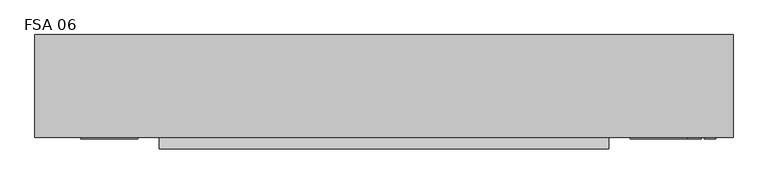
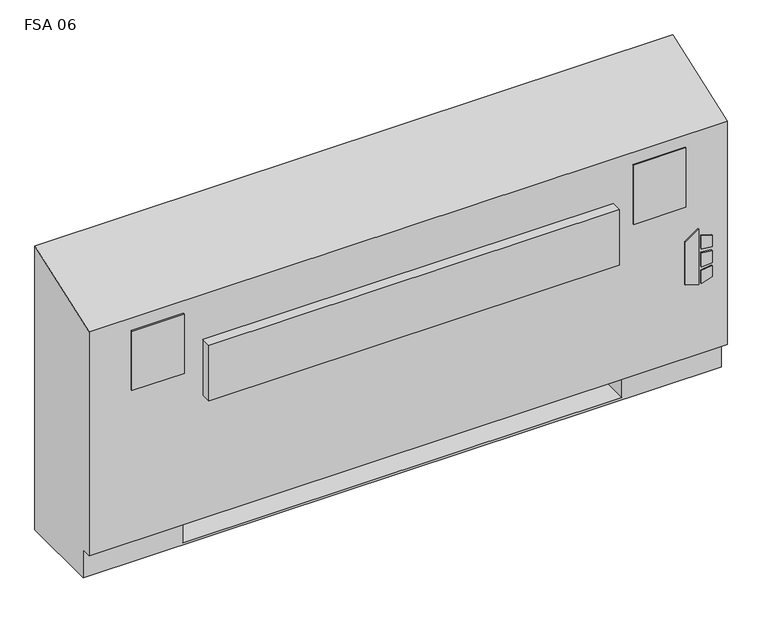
"""IFC4 building model written with IfcOpenShell, lengths in millimetres: proxy geometry, Vertical_Fan_Coil_Unit_-_FSA_-_IEC_-_4-Pipe_FS-FR_RH_2022 : FSA 06."""

from ifc_helpers import new_model, si_unit, point, frame, frame_2d, origin, place, context, project, spatial, polyline, circle_curve, trimmed, segment, composite_curve, outline, extrude, source, transform, mapped, element, save
from ifc_brep_helpers import plane_surface, revolved_surface, advanced_brep


def fsa_06_bd2dc38c(model_context):
    return source(origin(), model_context, "Body", "SolidModel", [
        extrude(outline(polyline([(263.9480703, 823.9868862), (254.0, 856.1602728), (396.1709244, 856.1602728), (373.1489183, 823.9868862), (263.9480703, 823.9868862)])), frame((0.0, 12.7, 0.0), z_axis=(0.0, 1.0, 0.0), x_axis=(0.0, 0.0, 1.0)), (0.0, 0.0, 1.0), 3.175),
        extrude(outline(polyline([(342.9473557, 862.9186058), (339.7449632, 889.0), (368.9738042, 889.0), (377.0382193, 862.9186058), (342.9473557, 862.9186058)])), frame((0.0, 12.7, 0.0), z_axis=(0.0, 1.0, 0.0), x_axis=(0.0, 0.0, 1.0)), (0.0, 0.0, 1.0), 3.175),
        extrude(outline(polyline([(291.0838288, 889.0), (287.4183279, 862.9186058), (254.0, 862.9186058), (262.6342372, 889.0), (291.0838288, 889.0)])), frame((0.0, 12.7, 0.0), z_axis=(0.0, 1.0, 0.0), x_axis=(0.0, 0.0, 1.0)), (0.0, 0.0, 1.0), 3.175),
        extrude(outline(polyline([(330.3989903, 889.0), (332.6808166, 862.9186058), (296.7432681, 862.9186058), (299.4845331, 889.0), (330.3989903, 889.0)])), frame((0.0, 12.7, 0.0), z_axis=(0.0, 1.0, 0.0), x_axis=(0.0, 0.0, 1.0)), (0.0, 0.0, 1.0), 3.175),
        extrude(outline(polyline([(-501.65, 81.534), (-501.65, 223.266), (-381.0, 223.266), (-381.0, 81.534), (-501.65, 81.534)])), frame((0.0, 0.0, 327.025), z_axis=(0.0, 0.0, 1.0), x_axis=(1.0, 0.0, 0.0)), (0.0, 0.0, 1.0), 260.35),
        extrude(outline(polyline([(-393.7, 12.7), (-520.7, 12.7), (-520.7, 15.875), (-393.7, 15.875), (-393.7, 12.7)])), frame((0.0, 0.0, 463.55), z_axis=(0.0, 0.0, 1.0), x_axis=(1.0, 0.0, 0.0)), (0.0, 0.0, 1.0), 152.4),
        extrude(outline(polyline([(825.5, 12.7), (698.5, 12.7), (698.5, 15.875), (825.5, 15.875), (825.5, 12.7)])), frame((0.0, 0.0, 463.55), z_axis=(0.0, 0.0, 1.0), x_axis=(1.0, 0.0, 0.0)), (0.0, 0.0, 1.0), 152.4),
        extrude(outline(composite_curve([segment(trimmed(circle_curve(frame_2d((749.3, 130.175)), 9.525), [point((739.775, 130.175))], [point((758.825, 130.175))], False, "CARTESIAN"), True, "CONTINUOUS"), segment(trimmed(circle_curve(frame_2d((749.3, 130.175)), 9.525), [point((758.825, 130.175))], [point((739.775, 130.175))], False, "CARTESIAN"), True, "CONTINUOUS")], self_intersect=False)), frame((0.0, 0.0, 101.6), z_axis=(0.0, 0.0, 1.0), x_axis=(1.0, 0.0, 0.0)), (0.0, 0.0, 1.0), 25.4),
        extrude(outline(polyline([(850.9, 196.85), (850.9, 63.5), (685.8, 63.5), (685.8, 196.85), (850.9, 196.85)])), frame((0.0, 0.0, 127.0), z_axis=(0.0, 0.0, 1.0), x_axis=(1.0, 0.0, 0.0)), (0.0, 0.0, 1.0), 50.8),
        extrude(outline(polyline([(650.875, -9.525), (-346.075, -9.525), (-346.075, 15.875), (650.875, 15.875), (650.875, -9.525)])), frame((0.0, 0.0, 389.3009245), z_axis=(0.0, 0.0, 1.0), x_axis=(1.0, 0.0, 0.0)), (0.0, 0.0, 1.0), 142.875),
        extrude(outline(composite_curve([segment(trimmed(circle_curve(frame_2d((107.95, 457.2)), 7.9375), [point((107.95, 465.1375))], [point((107.95, 449.2625))], False, "CARTESIAN"), True, "CONTINUOUS"), segment(trimmed(circle_curve(frame_2d((107.95, 457.2)), 7.9375), [point((107.95, 449.2625))], [point((107.95, 465.1375))], False, "CARTESIAN"), True, "CONTINUOUS")], self_intersect=False)), frame((685.8, 0.0, 0.0), z_axis=(1.0, 0.0, 0.0), x_axis=(0.0, 1.0, 0.0)), (0.0, 0.0, 1.0), 50.8),
        extrude(outline(composite_curve([segment(trimmed(circle_curve(frame_2d((155.575, 431.8)), 7.9375), [point((155.575, 439.7375))], [point((155.575, 423.8625))], False, "CARTESIAN"), True, "CONTINUOUS"), segment(trimmed(circle_curve(frame_2d((155.575, 431.8)), 7.9375), [point((155.575, 423.8625))], [point((155.575, 439.7375))], False, "CARTESIAN"), True, "CONTINUOUS")], self_intersect=False)), frame((685.8, 0.0, 0.0), z_axis=(1.0, 0.0, 0.0), x_axis=(0.0, 1.0, 0.0)), (0.0, 0.0, 1.0), 50.8),
        extrude(outline(composite_curve([segment(trimmed(circle_curve(frame_2d((53.975, 416.56)), 7.9502), [point((53.975, 424.5102))], [point((53.975, 408.6098))], False, "CARTESIAN"), True, "CONTINUOUS"), segment(trimmed(circle_curve(frame_2d((53.975, 416.56)), 7.9502), [point((53.975, 408.6098))], [point((53.975, 424.5102))], False, "CARTESIAN"), True, "CONTINUOUS")], self_intersect=False)), frame((685.8, 0.0, 0.0), z_axis=(1.0, 0.0, 0.0), x_axis=(0.0, 1.0, 0.0)), (0.0, 0.0, 1.0), 50.8),
        extrude(outline(composite_curve([segment(trimmed(circle_curve(frame_2d((130.175, 554.99)), 7.9502), [point((130.175, 562.9402))], [point((130.175, 547.0398))], False, "CARTESIAN"), True, "CONTINUOUS"), segment(trimmed(circle_curve(frame_2d((130.175, 554.99)), 7.9502), [point((130.175, 547.0398))], [point((130.175, 562.9402))], False, "CARTESIAN"), True, "CONTINUOUS")], self_intersect=False)), frame((685.8, 0.0, 0.0), z_axis=(1.0, 0.0, 0.0), x_axis=(0.0, 1.0, 0.0)), (0.0, 0.0, 1.0), 50.8),
        advanced_brep(
        [(-622.3, 244.475, 0.0), (927.1, 244.475, 0.0), (927.1, 41.275, 0.0), (-622.3, 41.275, 0.0), (-622.3, 244.475, 730.25), (927.1, 244.475, 730.25), (685.8, 244.475, 73.025), (914.4, 244.475, 73.025), (914.4, 244.475, 654.05), (685.8, 244.475, 654.05), (685.8, 244.475, 414.8650565), (714.375, 244.475, 414.8650565), (714.375, 244.475, 385.2349435), (685.8, 244.475, 385.2349435), (685.8, 244.475, 287.3375), (714.375, 244.475, 287.3375), (714.375, 244.475, 258.7625), (685.8, 244.475, 258.7625), (685.8, 244.475, 141.2875), (714.375, 244.475, 141.2875), (714.375, 244.475, 112.7125), (685.8, 244.475, 112.7125), (-381.0, 244.475, 654.05), (-609.6, 244.475, 654.05), (-609.6, 244.475, 73.025), (-381.0, 244.475, 73.025), (-381.0, 244.475, 112.7125), (-409.575, 244.475, 112.7125), (-409.575, 244.475, 141.2875), (-381.0, 244.475, 141.2875), (-381.0, 244.475, 258.7625), (-409.575, 244.475, 258.7625), (-409.575, 244.475, 287.3375), (-381.0, 244.475, 287.3375), (-381.0, 244.475, 385.2349435), (-409.575, 244.475, 385.2349435), (-409.575, 244.475, 414.8650565), (-381.0, 244.475, 414.8650565), (704.0626, 244.475, 127.0), (692.9374, 244.475, 127.0), (704.0626, 244.475, 400.05), (692.9374, 244.475, 400.05), (704.0626, 244.475, 273.05), (692.9374, 244.475, 273.05), (-388.1374, 244.475, 127.0), (-399.2626, 244.475, 127.0), (-388.1374, 244.475, 273.05), (-399.2626, 244.475, 273.05), (-388.1374, 244.475, 400.05), (-399.2626, 244.475, 400.05), (-622.3, 41.275, 73.025), (-622.3, 15.875, 73.025), (-622.3, 15.875, 647.7), (927.1, 15.875, 73.025), (927.1, 15.875, 647.7), (927.1, 41.275, 73.025), (-381.0, 41.275, 73.025), (-381.0, 225.425, 73.025), (685.8, 225.425, 73.025), (685.8, 41.275, 73.025), (685.8, 41.275, 6.35), (-381.0, 41.275, 6.35), (685.8, 41.275, 654.05), (914.4, 41.275, 654.05), (914.4, 41.275, 73.025), (685.8, 41.275, 73.025), (-381.0, 41.275, 654.05), (-381.0, 41.275, 73.025), (-609.6, 41.275, 73.025), (-609.6, 41.275, 654.05), (685.8, 225.425, 73.025), (685.8, 238.125, 112.7125), (685.8, 238.125, 141.2875), (685.8, 238.125, 258.7625), (685.8, 238.125, 287.3375), (685.8, 238.125, 385.2349435), (685.8, 238.125, 414.8650565), (-381.0, 225.425, 73.025), (-381.0, 238.125, 414.8650565), (-381.0, 238.125, 385.2349435), (-381.0, 238.125, 287.3375), (-381.0, 238.125, 258.7625), (-381.0, 238.125, 141.2875), (-381.0, 238.125, 112.7125), (-381.0, 225.425, 6.35), (685.8, 225.425, 6.35), (714.375, 238.125, 112.7125), (714.375, 238.125, 141.2875), (692.9374, 238.125, 127.0), (704.0626, 238.125, 127.0), (714.375, 238.125, 258.7625), (714.375, 238.125, 287.3375), (692.9374, 238.125, 273.05), (704.0626, 238.125, 273.05), (714.375, 238.125, 385.2349435), (714.375, 238.125, 414.8650565), (692.9374, 238.125, 400.05), (704.0626, 238.125, 400.05), (-409.575, 238.125, 141.2875), (-409.575, 238.125, 112.7125), (-399.2626, 238.125, 127.0), (-388.1374, 238.125, 127.0), (-409.575, 238.125, 287.3375), (-409.575, 238.125, 258.7625), (-399.2626, 238.125, 273.05), (-388.1374, 238.125, 273.05), (-409.575, 238.125, 414.8650565), (-409.575, 238.125, 385.2349435), (-399.2626, 238.125, 400.05), (-388.1374, 238.125, 400.05)],
        [
            (0, 1),
            (1, 2),
            (2, 3),
            (3, 0),
            (0, 4),
            (4, 5),
            (5, 1),
            (6, 7),
            (7, 8),
            (8, 9),
            (9, 10),
            (10, 11),
            (11, 12),
            (12, 13),
            (13, 14),
            (14, 15),
            (15, 16),
            (16, 17),
            (17, 18),
            (18, 19),
            (19, 20),
            (20, 21),
            (21, 6),
            (22, 23),
            (23, 24),
            (24, 25),
            (25, 26),
            (26, 27),
            (27, 28),
            (28, 29),
            (29, 30),
            (30, 31),
            (31, 32),
            (32, 33),
            (33, 34),
            (34, 35),
            (35, 36),
            (36, 37),
            (37, 22),
            (38, 39, circle_curve(frame((698.5, 244.475, 127.0), z_axis=(0.0, -1.0, 0.0), x_axis=(-1.0, 0.0, 0.0)), 5.5626)),
            (39, 38, circle_curve(frame((698.5, 244.475, 127.0), z_axis=(0.0, -1.0, 0.0), x_axis=(-1.0, 0.0, 0.0)), 5.5626)),
            (40, 41, circle_curve(frame((698.5, 244.475, 400.05), z_axis=(0.0, -1.0, 0.0), x_axis=(-1.0, 0.0, 0.0)), 5.5626)),
            (41, 40, circle_curve(frame((698.5, 244.475, 400.05), z_axis=(0.0, -1.0, 0.0), x_axis=(-1.0, 0.0, 0.0)), 5.5626)),
            (42, 43, circle_curve(frame((698.5, 244.475, 273.05), z_axis=(0.0, -1.0, 0.0), x_axis=(-1.0, 0.0, 0.0)), 5.5626)),
            (43, 42, circle_curve(frame((698.5, 244.475, 273.05), z_axis=(0.0, -1.0, 0.0), x_axis=(-1.0, 0.0, 0.0)), 5.5626)),
            (44, 45, circle_curve(frame((-393.7, 244.475, 127.0), z_axis=(0.0, -1.0, 0.0), x_axis=(-1.0, 0.0, 0.0)), 5.5626)),
            (45, 44, circle_curve(frame((-393.7, 244.475, 127.0), z_axis=(0.0, -1.0, 0.0), x_axis=(-1.0, 0.0, 0.0)), 5.5626)),
            (46, 47, circle_curve(frame((-393.7, 244.475, 273.05), z_axis=(0.0, -1.0, 0.0), x_axis=(-1.0, 0.0, 0.0)), 5.5626)),
            (47, 46, circle_curve(frame((-393.7, 244.475, 273.05), z_axis=(0.0, -1.0, 0.0), x_axis=(-1.0, 0.0, 0.0)), 5.5626)),
            (48, 49, circle_curve(frame((-393.7, 244.475, 400.05), z_axis=(0.0, -1.0, 0.0), x_axis=(-1.0, 0.0, 0.0)), 5.5626)),
            (49, 48, circle_curve(frame((-393.7, 244.475, 400.05), z_axis=(0.0, -1.0, 0.0), x_axis=(-1.0, 0.0, 0.0)), 5.5626)),
            (3, 50),
            (50, 51),
            (51, 52),
            (52, 4),
            (51, 53),
            (53, 54),
            (54, 52),
            (5, 54),
            (53, 55),
            (55, 2),
            (50, 56),
            (56, 57),
            (57, 58),
            (58, 59),
            (59, 55),
            (59, 60),
            (60, 61),
            (61, 56),
            (62, 63),
            (63, 64),
            (64, 65),
            (65, 62),
            (66, 67),
            (67, 68),
            (68, 69),
            (69, 66),
            (65, 70),
            (70, 6),
            (21, 71),
            (71, 72),
            (72, 18),
            (17, 73),
            (73, 74),
            (74, 14),
            (13, 75),
            (75, 76),
            (76, 10),
            (9, 62),
            (64, 7),
            (63, 8),
            (69, 23),
            (22, 66),
            (68, 24),
            (67, 77),
            (77, 25),
            (37, 78),
            (78, 79),
            (79, 34),
            (33, 80),
            (80, 81),
            (81, 30),
            (29, 82),
            (82, 83),
            (83, 26),
            (57, 84),
            (84, 85),
            (85, 58),
            (85, 60),
            (84, 61),
            (71, 86),
            (86, 87),
            (87, 72),
            (88, 89, circle_curve(frame((698.5, 238.125, 127.0), z_axis=(0.0, 1.0, 0.0), x_axis=(-1.0, 0.0, 0.0)), 5.5626)),
            (89, 88, circle_curve(frame((698.5, 238.125, 127.0), z_axis=(0.0, 1.0, 0.0), x_axis=(-1.0, 0.0, 0.0)), 5.5626)),
            (73, 90),
            (90, 91),
            (91, 74),
            (92, 93, circle_curve(frame((698.5, 238.125, 273.05), z_axis=(0.0, 1.0, 0.0), x_axis=(-1.0, 0.0, 0.0)), 5.5626)),
            (93, 92, circle_curve(frame((698.5, 238.125, 273.05), z_axis=(0.0, 1.0, 0.0), x_axis=(-1.0, 0.0, 0.0)), 5.5626)),
            (75, 94),
            (94, 95),
            (95, 76),
            (96, 97, circle_curve(frame((698.5, 238.125, 400.05), z_axis=(0.0, 1.0, 0.0), x_axis=(-1.0, 0.0, 0.0)), 5.5626)),
            (97, 96, circle_curve(frame((698.5, 238.125, 400.05), z_axis=(0.0, 1.0, 0.0), x_axis=(-1.0, 0.0, 0.0)), 5.5626)),
            (98, 99),
            (99, 83),
            (82, 98),
            (100, 101, circle_curve(frame((-393.7, 238.125, 127.0), z_axis=(0.0, 1.0, 0.0), x_axis=(-1.0, 0.0, 0.0)), 5.5626)),
            (101, 100, circle_curve(frame((-393.7, 238.125, 127.0), z_axis=(0.0, 1.0, 0.0), x_axis=(-1.0, 0.0, 0.0)), 5.5626)),
            (102, 103),
            (103, 81),
            (80, 102),
            (104, 105, circle_curve(frame((-393.7, 238.125, 273.05), z_axis=(0.0, 1.0, 0.0), x_axis=(-1.0, 0.0, 0.0)), 5.5626)),
            (105, 104, circle_curve(frame((-393.7, 238.125, 273.05), z_axis=(0.0, 1.0, 0.0), x_axis=(-1.0, 0.0, 0.0)), 5.5626)),
            (106, 107),
            (107, 79),
            (78, 106),
            (108, 109, circle_curve(frame((-393.7, 238.125, 400.05), z_axis=(0.0, 1.0, 0.0), x_axis=(-1.0, 0.0, 0.0)), 5.5626)),
            (109, 108, circle_curve(frame((-393.7, 238.125, 400.05), z_axis=(0.0, 1.0, 0.0), x_axis=(-1.0, 0.0, 0.0)), 5.5626)),
            (87, 19),
            (86, 20),
            (91, 15),
            (90, 16),
            (95, 11),
            (94, 12),
            (28, 98),
            (99, 27),
            (32, 102),
            (103, 31),
            (36, 106),
            (107, 35),
            (88, 39),
            (38, 89),
            (96, 41),
            (40, 97),
            (92, 43),
            (42, 93),
            (100, 45),
            (44, 101),
            (104, 47),
            (46, 105),
            (108, 49),
            (48, 109),
        ],
        [
            plane_surface(frame((-622.3, 244.475, 0.0), z_axis=(0.0, 0.0, -1.0), x_axis=(1.0, 0.0, 0.0))),
            plane_surface(frame((927.1, 244.475, 730.25), z_axis=(0.0, 1.0, 0.0), x_axis=(0.0, 0.0, -1.0))),
            plane_surface(frame((-622.3, 244.475, 730.25), z_axis=(-1.0, 0.0, 0.0), x_axis=(0.0, 0.0, -1.0))),
            plane_surface(frame((-622.3, 15.875, 730.25), z_axis=(0.0, -1.0, 0.0), x_axis=(0.0, 0.0, -1.0))),
            plane_surface(frame((927.1, 15.875, 730.25), z_axis=(1.0, 0.0, 0.0), x_axis=(0.0, 0.0, -1.0))),
            plane_surface(frame((-622.3, 15.875, 73.025), z_axis=(0.0, 0.0, -1.0), x_axis=(1.0, 0.0, 0.0))),
            plane_surface(frame((-622.3, 41.275, 73.025), z_axis=(0.0, -1.0, 0.0), x_axis=(1.0, 0.0, 0.0))),
            plane_surface(frame((685.8, 41.275, 654.05), z_axis=(0.0, 1.0, 0.0), x_axis=(0.0, 0.0, -1.0))),
            plane_surface(frame((685.8, 41.275, 654.05), z_axis=(1.0, 0.0, 0.0), x_axis=(0.0, 1.0, 0.0))),
            plane_surface(frame((685.8, 41.275, 73.025), z_axis=(0.0, 0.0, 1.0), x_axis=(0.0, 1.0, 0.0))),
            plane_surface(frame((914.4, 41.275, 73.025), z_axis=(-1.0, 0.0, 0.0), x_axis=(0.0, 1.0, 0.0))),
            plane_surface(frame((914.4, 41.275, 654.05), z_axis=(0.0, 0.0, -1.0), x_axis=(0.0, 1.0, 0.0))),
            plane_surface(frame((-381.0, 41.275, 654.05), z_axis=(0.0, 0.0, -1.0), x_axis=(0.0, 1.0, 0.0))),
            plane_surface(frame((-609.6, 41.275, 654.05), z_axis=(1.0, 0.0, 0.0), x_axis=(0.0, 1.0, 0.0))),
            plane_surface(frame((-609.6, 41.275, 73.025), z_axis=(0.0, 0.0, 1.0), x_axis=(0.0, 1.0, 0.0))),
            plane_surface(frame((-381.0, 41.275, 73.025), z_axis=(-1.0, 0.0, 0.0), x_axis=(0.0, 1.0, 0.0))),
            plane_surface(frame((685.8, 225.425, 73.025), z_axis=(0.0, -1.0, 0.0), x_axis=(0.0, 0.0, -1.0))),
            plane_surface(frame((685.8, 225.425, 73.025), z_axis=(-1.0, 0.0, 0.0), x_axis=(0.0, -1.0, 0.0))),
            plane_surface(frame((685.8, 225.425, 6.35), z_axis=(0.0, 0.0, 1.0), x_axis=(0.0, -1.0, 0.0))),
            plane_surface(frame((-381.0, 225.425, 6.35), z_axis=(1.0, 0.0, 0.0), x_axis=(0.0, -1.0, 0.0))),
            plane_surface(frame((714.375, 238.125, 141.2875), z_axis=(0.0, -1.0, 0.0), x_axis=(-1.0, 0.0, 0.0))),
            plane_surface(frame((685.8, 244.475, 141.2875), z_axis=(0.0, 0.0, 1.0), x_axis=(0.0, -1.0, 0.0))),
            plane_surface(frame((714.375, 244.475, 141.2875), z_axis=(1.0, 0.0, 0.0), x_axis=(0.0, -1.0, 0.0))),
            plane_surface(frame((714.375, 244.475, 112.7125), z_axis=(0.0, 0.0, -1.0), x_axis=(0.0, -1.0, 0.0))),
            plane_surface(frame((685.8, 244.475, 287.3375), z_axis=(0.0, 0.0, 1.0), x_axis=(0.0, -1.0, 0.0))),
            plane_surface(frame((714.375, 244.475, 287.3375), z_axis=(1.0, 0.0, 0.0), x_axis=(0.0, -1.0, 0.0))),
            plane_surface(frame((714.375, 244.475, 258.7625), z_axis=(0.0, 0.0, -1.0), x_axis=(0.0, -1.0, 0.0))),
            plane_surface(frame((685.8, 244.475, 414.8650565), z_axis=(0.0, 0.0, 1.0), x_axis=(0.0, -1.0, 0.0))),
            plane_surface(frame((714.375, 244.475, 414.8650565), z_axis=(1.0, 0.0, 0.0), x_axis=(0.0, -1.0, 0.0))),
            plane_surface(frame((714.375, 244.475, 385.2349435), z_axis=(0.0, 0.0, -1.0), x_axis=(0.0, -1.0, 0.0))),
            plane_surface(frame((-409.575, 244.475, 141.2875), z_axis=(0.0, 0.0, 1.0), x_axis=(0.0, -1.0, 0.0))),
            plane_surface(frame((-381.0, 244.475, 112.7125), z_axis=(0.0, 0.0, -1.0), x_axis=(0.0, -1.0, 0.0))),
            plane_surface(frame((-409.575, 244.475, 112.7125), z_axis=(-1.0, 0.0, 0.0), x_axis=(0.0, -1.0, 0.0))),
            plane_surface(frame((-409.575, 244.475, 287.3375), z_axis=(0.0, 0.0, 1.0), x_axis=(0.0, -1.0, 0.0))),
            plane_surface(frame((-381.0, 244.475, 258.7625), z_axis=(0.0, 0.0, -1.0), x_axis=(0.0, -1.0, 0.0))),
            plane_surface(frame((-409.575, 244.475, 258.7625), z_axis=(-1.0, 0.0, 0.0), x_axis=(0.0, -1.0, 0.0))),
            plane_surface(frame((-409.575, 244.475, 414.8650565), z_axis=(0.0, 0.0, 1.0), x_axis=(0.0, -1.0, 0.0))),
            plane_surface(frame((-381.0, 244.475, 385.2349435), z_axis=(0.0, 0.0, -1.0), x_axis=(0.0, -1.0, 0.0))),
            plane_surface(frame((-409.575, 244.475, 385.2349435), z_axis=(-1.0, 0.0, 0.0), x_axis=(0.0, -1.0, 0.0))),
            revolved_surface(polyline([(692.9374, 238.125, 127.0), (692.9374, 244.475, 127.0)]), (698.5, 244.475, 127.0), (0.0, -1.0, 0.0)),
            revolved_surface(polyline([(692.9374, 238.125, 400.05), (692.9374, 244.475, 400.05)]), (698.5, 244.475, 400.05), (0.0, -1.0, 0.0)),
            revolved_surface(polyline([(692.9374, 238.125, 273.05), (692.9374, 244.475, 273.05)]), (698.5, 244.475, 273.05), (0.0, -1.0, 0.0)),
            revolved_surface(polyline([(-399.26259999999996, 238.125, 127.0), (-399.26259999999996, 244.475, 127.0)]), (-393.7, 244.475, 127.0), (0.0, -1.0, 0.0)),
            revolved_surface(polyline([(-399.26259999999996, 238.125, 273.05), (-399.26259999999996, 244.475, 273.05)]), (-393.7, 244.475, 273.05), (0.0, -1.0, 0.0)),
            revolved_surface(polyline([(-399.26259999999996, 238.125, 400.05), (-399.26259999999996, 244.475, 400.05)]), (-393.7, 244.475, 400.05), (0.0, -1.0, 0.0)),
            plane_surface(frame((-622.3, 244.475, 730.25), z_axis=(0.0, -0.33964446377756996, 0.9405538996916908), x_axis=(1.0, 0.0, 0.0))),
        ],
        [
            (0, [[1, 2, 3, 4]]),
            (1, [[-1, 5, 6, 7], [8, 9, 10, 11, 12, 13, 14, 15, 16, 17, 18, 19, 20, 21, 22, 23], [24, 25, 26, 27, 28, 29, 30, 31, 32, 33, 34, 35, 36, 37, 38, 39], [40, 41], [42, 43], [44, 45], [46, 47], [48, 49], [50, 51]]),
            (2, [[-5, -4, 52, 53, 54, 55]]),
            (3, [[56, 57, 58, -54]]),
            (4, [[-7, 59, -57, 60, 61, -2]]),
            (5, [[-53, 62, 63, 64, 65, 66, -60, -56]]),
            (6, [[-3, -61, -66, 67, 68, 69, -62, -52]]),
            (7, [[70, 71, 72, 73]]),
            (7, [[74, 75, 76, 77]]),
            (8, [[-73, 78, 79, -23, 80, 81, 82, -19, 83, 84, 85, -15, 86, 87, 88, -11, 89]]),
            (9, [[-72, 90, -8, -79, -78]]),
            (10, [[-71, 91, -9, -90]]),
            (11, [[-70, -89, -10, -91]]),
            (12, [[-77, 92, -24, 93]]),
            (13, [[-76, 94, -25, -92]]),
            (14, [[-75, 95, 96, -26, -94]]),
            (15, [[-74, -93, -39, 97, 98, 99, -35, 100, 101, 102, -31, 103, 104, 105, -27, -96, -95]]),
            (16, [[-64, 106, 107, 108]]),
            (17, [[-108, 109, -67, -65]]),
            (18, [[-107, 110, -68, -109]]),
            (19, [[-106, -63, -69, -110]]),
            (20, [[111, 112, 113, -81], [114, 115]]),
            (20, [[116, 117, 118, -84], [119, 120]]),
            (20, [[121, 122, 123, -87], [124, 125]]),
            (20, [[126, 127, -104, 128], [129, 130]]),
            (20, [[131, 132, -101, 133], [134, 135]]),
            (20, [[136, 137, -98, 138], [139, 140]]),
            (21, [[-113, 141, -20, -82]]),
            (22, [[-112, 142, -21, -141]]),
            (23, [[-111, -80, -22, -142]]),
            (24, [[-118, 143, -16, -85]]),
            (25, [[-117, 144, -17, -143]]),
            (26, [[-116, -83, -18, -144]]),
            (27, [[-123, 145, -12, -88]]),
            (28, [[-122, 146, -13, -145]]),
            (29, [[-121, -86, -14, -146]]),
            (30, [[-128, -103, -30, 147]]),
            (31, [[-127, 148, -28, -105]]),
            (32, [[-126, -147, -29, -148]]),
            (33, [[-133, -100, -34, 149]]),
            (34, [[-132, 150, -32, -102]]),
            (35, [[-131, -149, -33, -150]]),
            (36, [[-138, -97, -38, 151]]),
            (37, [[-137, 152, -36, -99]]),
            (38, [[-136, -151, -37, -152]]),
            (39, [[153, -40, 154, -114]]),
            (39, [[-153, -115, -154, -41]]),
            (40, [[155, -42, 156, -124]]),
            (40, [[-155, -125, -156, -43]]),
            (41, [[157, -44, 158, -119]]),
            (41, [[-157, -120, -158, -45]]),
            (42, [[159, -46, 160, -129]]),
            (42, [[-159, -130, -160, -47]]),
            (43, [[161, -48, 162, -134]]),
            (43, [[-161, -135, -162, -49]]),
            (44, [[163, -50, 164, -139]]),
            (44, [[-163, -140, -164, -51]]),
            (45, [[-6, -55, -58, -59]]),
        ],
    ),
    ])


if __name__ == "__main__":
    model = new_model("IFC4")
    model_context = context("Model", 3, world=origin())
    ifc_project = project(units=[si_unit("LENGTHUNIT", "METRE", prefix="MILLI")], contexts=[model_context])
    site = spatial("IfcSite", under=ifc_project)
    building = spatial("IfcBuilding", under=site)
    placement = place(None, origin())
    fsa_06_shape = fsa_06_bd2dc38c(model_context)
    element("IfcBuildingElementProxy", 1, Name="Vertical_Fan_Coil_Unit_-_FSA_-_IEC_-_4-Pipe_FS-FR_RH_2022 : FSA 06", ObjectType="Vertical_Fan_Coil_Unit_-_FSA_-_IEC_-_4-Pipe_FS-FR_RH_2022 : FSA 06", at=placement, inside=building, context=model_context, shape_type="MappedRepresentation", body=[
        mapped(fsa_06_shape, transform((0.0, 0.0, 0.0), x_axis=(1.0, 0.0, 0.0), y_axis=(0.0, 1.0, 0.0), z_axis=(0.0, 0.0, 1.0))),
    ])
    save(model, "model.ifc")
